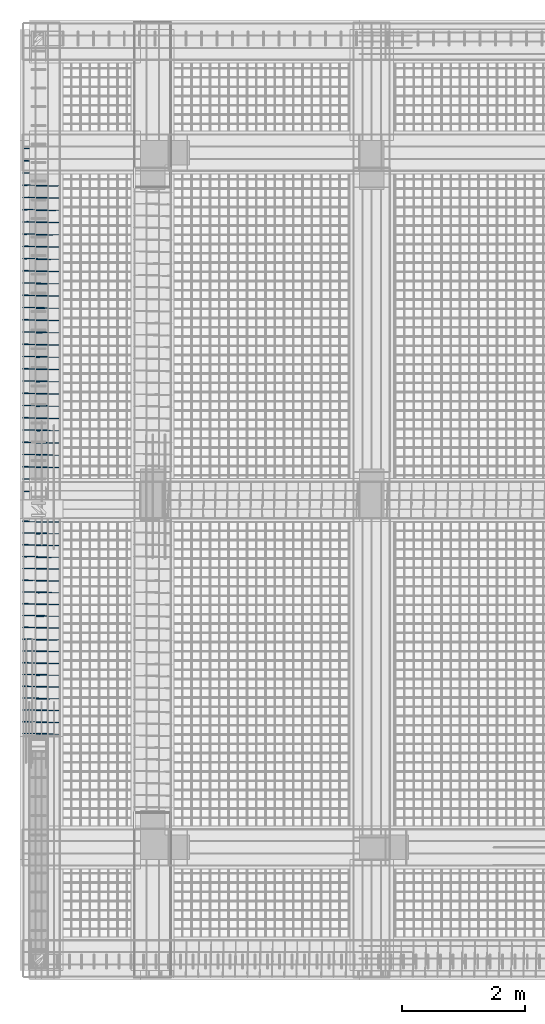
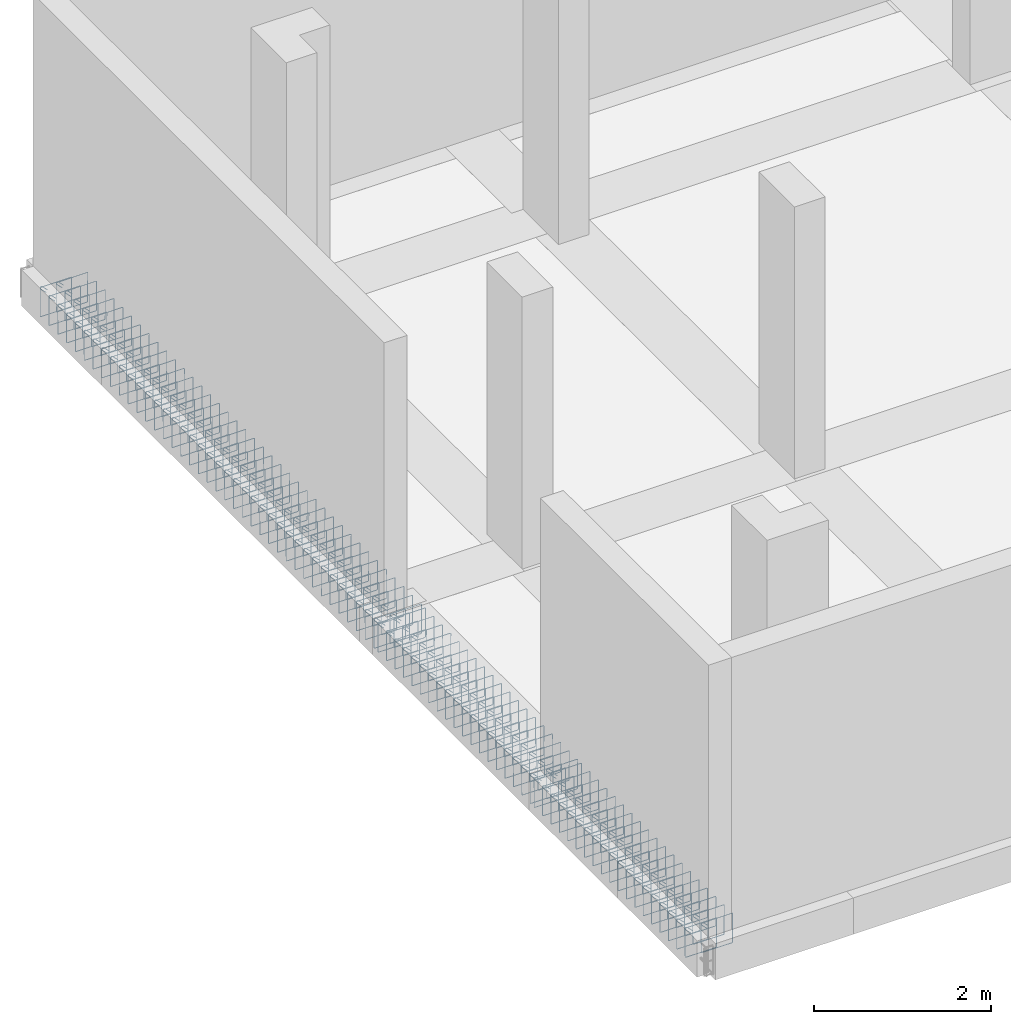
# One storey, part 3 of 9: 1 reinforcing bar.
"""IFC4 building model written with IfcOpenShell, lengths in metres."""

from ifc_helpers import new_model, entity, si_unit, origin_with_axes, place, context, project, spatial, source, transform, mapped, element, save


model = new_model("IFC4")

# Units and contexts
model_context = context("Model", 3, precision=1e-05, world=origin_with_axes())
ifc_project = project(units=[si_unit("LENGTHUNIT", "METRE"), si_unit("AREAUNIT", "SQUARE_METRE"), si_unit("VOLUMEUNIT", "CUBIC_METRE"), si_unit("MASSUNIT", "GRAM", prefix="KILO"), si_unit("TIMEUNIT", "SECOND"), si_unit("PLANEANGLEUNIT", "RADIAN"), si_unit("SOLIDANGLEUNIT", "STERADIAN"), si_unit("THERMODYNAMICTEMPERATUREUNIT", "DEGREE_CELSIUS")], contexts=[model_context])

# Site, building, storey
placement_1 = place(None, origin_with_axes())
site = spatial("IfcSite", under=ifc_project, at=placement_1, Name="Italia", CompositionType="ELEMENT")
building = spatial("IfcBuilding", under=site, at=placement_1, Name="Palazzina", CompositionType="ELEMENT")
storey = spatial("IfcBuildingStorey", under=building, at=placement_1, Name="Storey 0", CompositionType="ELEMENT", Elevation=0.0)

# Reinforcing bar
shared_shape = source(origin_with_axes(), model_context, "Body", "AdvancedSweptSolid", [
    entity("IfcSweptDiskSolid", entity("IfcIndexedPolyCurve", entity("IfcCartesianPointList3D", [[-1.83429, -1.46, -0.138211], [-1.90207, -1.45942, -0.0704289], [-1.905, -1.45937, -0.0633579], [-1.905, -1.45932, -0.055], [-1.90424, -1.4593, -0.0511732], [-1.90207, -1.45927, -0.0479289], [-1.89883, -1.45925, -0.0457612], [-1.895, -1.45923, -0.045], [-1.50833, -1.45688, -0.045], [-1.50451, -1.45686, -0.0457612], [-1.50126, -1.45683, -0.0479289], [-1.49909, -1.45681, -0.0511732], [-1.49833, -1.45679, -0.055], [-1.49833, -1.45442, -0.445], [-1.49909, -1.4544, -0.448827], [-1.50126, -1.45437, -0.452071], [-1.50451, -1.45435, -0.454239], [-1.50833, -1.45432, -0.455], [-1.895, -1.45198, -0.455], [-1.89883, -1.45195, -0.454239], [-1.90207, -1.45193, -0.452071], [-1.90424, -1.45191, -0.448827], [-1.905, -1.45188, -0.445], [-1.905, -1.44952, -0.055], [-1.90424, -1.44949, -0.0511732], [-1.90207, -1.44947, -0.0479289], [-1.89883, -1.44945, -0.0457612], [-1.895, -1.44942, -0.045], [-1.88664, -1.44937, -0.045], [-1.87957, -1.44933, -0.0479289], [-1.81179, -1.44874, -0.115711]]), [entity("IfcLineIndex", [1, 2]), entity("IfcLineIndex", [2, 3]), entity("IfcLineIndex", [3, 4]), entity("IfcLineIndex", [4, 5]), entity("IfcLineIndex", [5, 6]), entity("IfcLineIndex", [6, 7]), entity("IfcLineIndex", [7, 8]), entity("IfcLineIndex", [8, 9]), entity("IfcLineIndex", [9, 10]), entity("IfcLineIndex", [10, 11]), entity("IfcLineIndex", [11, 12]), entity("IfcLineIndex", [12, 13]), entity("IfcLineIndex", [13, 14]), entity("IfcLineIndex", [14, 15]), entity("IfcLineIndex", [15, 16]), entity("IfcLineIndex", [16, 17]), entity("IfcLineIndex", [17, 18]), entity("IfcLineIndex", [18, 19]), entity("IfcLineIndex", [19, 20]), entity("IfcLineIndex", [20, 21]), entity("IfcLineIndex", [21, 22]), entity("IfcLineIndex", [22, 23]), entity("IfcLineIndex", [23, 24]), entity("IfcLineIndex", [24, 25]), entity("IfcLineIndex", [25, 26]), entity("IfcLineIndex", [26, 27]), entity("IfcLineIndex", [27, 28]), entity("IfcLineIndex", [28, 29]), entity("IfcLineIndex", [29, 30]), entity("IfcLineIndex", [30, 31])], False), 0.005),
])
placement_2 = place(placement_1, origin_with_axes())
reinforcing_bar_placement = place(placement_2, origin_with_axes())
element("IfcReinforcingBar", 1, at=reinforcing_bar_placement, inside=storey, BarLength=1.85514, CrossSectionArea=7.854e-05, NominalDiameter=0.01, context=model_context, shape_type="MappedRepresentation", body=[
    mapped(shared_shape, transform((-7.96318e-05, 10.9985, -8.3074e-05), x_axis=(1.0, 5.45104e-05, 0.0), y_axis=(-5.45488e-05, 1.0, -5.63173e-05), z_axis=(0.0, 5.63173e-05, 1.0), scale=1.0)),
    mapped(shared_shape, transform((-7.96318e-05, 12.5859, -8.3074e-05), x_axis=(1.0, 5.45104e-05, 0.0), y_axis=(-5.45488e-05, 1.0, -5.63173e-05), z_axis=(0.0, 5.63173e-05, 1.0), scale=1.0)),
    mapped(shared_shape, transform((-7.96318e-05, 12.3875, -8.3074e-05), x_axis=(1.0, 5.45104e-05, 0.0), y_axis=(-5.45488e-05, 1.0, -5.63173e-05), z_axis=(0.0, 5.63173e-05, 1.0), scale=1.0)),
    mapped(shared_shape, transform((-7.96318e-05, 12.1891, -8.3074e-05), x_axis=(1.0, 5.45104e-05, 0.0), y_axis=(-5.45488e-05, 1.0, -5.63173e-05), z_axis=(0.0, 5.63173e-05, 1.0), scale=1.0)),
    mapped(shared_shape, transform((-7.96318e-05, 11.9906, -8.3074e-05), x_axis=(1.0, 5.45104e-05, 0.0), y_axis=(-5.45488e-05, 1.0, -5.63173e-05), z_axis=(0.0, 5.63173e-05, 1.0), scale=1.0)),
    mapped(shared_shape, transform((-7.96318e-05, 11.7922, -8.3074e-05), x_axis=(1.0, 5.45104e-05, 0.0), y_axis=(-5.45488e-05, 1.0, -5.63173e-05), z_axis=(0.0, 5.63173e-05, 1.0), scale=1.0)),
    mapped(shared_shape, transform((-7.96318e-05, 11.5938, -8.3074e-05), x_axis=(1.0, 5.45104e-05, 0.0), y_axis=(-5.45488e-05, 1.0, -5.63173e-05), z_axis=(0.0, 5.63173e-05, 1.0), scale=1.0)),
    mapped(shared_shape, transform((-7.96318e-05, 11.3954, -8.3074e-05), x_axis=(1.0, 5.45104e-05, 0.0), y_axis=(-5.45488e-05, 1.0, -5.63173e-05), z_axis=(0.0, 5.63173e-05, 1.0), scale=1.0)),
    mapped(shared_shape, transform((-7.96318e-05, 11.1969, -8.3074e-05), x_axis=(1.0, 5.45104e-05, 0.0), y_axis=(-5.45488e-05, 1.0, -5.63173e-05), z_axis=(0.0, 5.63173e-05, 1.0), scale=1.0)),
    mapped(shared_shape, transform((-7.96318e-05, 12.7843, -8.3074e-05), x_axis=(1.0, 5.45104e-05, 0.0), y_axis=(-5.45488e-05, 1.0, -5.63173e-05), z_axis=(0.0, 5.63173e-05, 1.0), scale=1.0)),
    mapped(shared_shape, transform((-7.96318e-05, 14.3717, -8.3074e-05), x_axis=(1.0, 5.45104e-05, 0.0), y_axis=(-5.45488e-05, 1.0, -5.63173e-05), z_axis=(0.0, 5.63173e-05, 1.0), scale=1.0)),
    mapped(shared_shape, transform((-7.96318e-05, 14.1733, -8.3074e-05), x_axis=(1.0, 5.45104e-05, 0.0), y_axis=(-5.45488e-05, 1.0, -5.63173e-05), z_axis=(0.0, 5.63173e-05, 1.0), scale=1.0)),
    mapped(shared_shape, transform((-7.96318e-05, 13.9748, -8.3074e-05), x_axis=(1.0, 5.45104e-05, 0.0), y_axis=(-5.45488e-05, 1.0, -5.63173e-05), z_axis=(0.0, 5.63173e-05, 1.0), scale=1.0)),
    mapped(shared_shape, transform((-7.96318e-05, 13.7764, -8.3074e-05), x_axis=(1.0, 5.45104e-05, 0.0), y_axis=(-5.45488e-05, 1.0, -5.63173e-05), z_axis=(0.0, 5.63173e-05, 1.0), scale=1.0)),
    mapped(shared_shape, transform((-7.96318e-05, 13.578, -8.3074e-05), x_axis=(1.0, 5.45104e-05, 0.0), y_axis=(-5.45488e-05, 1.0, -5.63173e-05), z_axis=(0.0, 5.63173e-05, 1.0), scale=1.0)),
    mapped(shared_shape, transform((-7.96318e-05, 13.3796, -8.3074e-05), x_axis=(1.0, 5.45104e-05, 0.0), y_axis=(-5.45488e-05, 1.0, -5.63173e-05), z_axis=(0.0, 5.63173e-05, 1.0), scale=1.0)),
    mapped(shared_shape, transform((-7.96318e-05, 13.1812, -8.3074e-05), x_axis=(1.0, 5.45104e-05, 0.0), y_axis=(-5.45488e-05, 1.0, -5.63173e-05), z_axis=(0.0, 5.63173e-05, 1.0), scale=1.0)),
    mapped(shared_shape, transform((-7.96318e-05, 12.9827, -8.3074e-05), x_axis=(1.0, 5.45104e-05, 0.0), y_axis=(-5.45488e-05, 1.0, -5.63173e-05), z_axis=(0.0, 5.63173e-05, 1.0), scale=1.0)),
    mapped(shared_shape, transform((-7.96318e-05, 14.5701, -8.3074e-05), x_axis=(1.0, 5.45104e-05, 0.0), y_axis=(-5.45488e-05, 1.0, -5.63173e-05), z_axis=(0.0, 5.63173e-05, 1.0), scale=1.0)),
    mapped(shared_shape, transform((0.203254, 12.1791, -8.3074e-05), x_axis=(1.0, 5.45104e-05, 0.0), y_axis=(-5.45488e-05, 1.0, -5.63173e-05), z_axis=(0.0, 5.63173e-05, 1.0), scale=1.0)),
    mapped(shared_shape, transform((0.203254, 11.9806, -8.3074e-05), x_axis=(1.0, 5.45104e-05, 0.0), y_axis=(-5.45488e-05, 1.0, -5.63173e-05), z_axis=(0.0, 5.63173e-05, 1.0), scale=1.0)),
    mapped(shared_shape, transform((0.203254, 11.7822, -8.3074e-05), x_axis=(1.0, 5.45104e-05, 0.0), y_axis=(-5.45488e-05, 1.0, -5.63173e-05), z_axis=(0.0, 5.63173e-05, 1.0), scale=1.0)),
    mapped(shared_shape, transform((0.203254, 11.5838, -8.3074e-05), x_axis=(1.0, 5.45104e-05, 0.0), y_axis=(-5.45488e-05, 1.0, -5.63173e-05), z_axis=(0.0, 5.63173e-05, 1.0), scale=1.0)),
    mapped(shared_shape, transform((0.203254, 11.3854, -8.3074e-05), x_axis=(1.0, 5.45104e-05, 0.0), y_axis=(-5.45488e-05, 1.0, -5.63173e-05), z_axis=(0.0, 5.63173e-05, 1.0), scale=1.0)),
    mapped(shared_shape, transform((0.203254, 11.1869, -8.3074e-05), x_axis=(1.0, 5.45104e-05, 0.0), y_axis=(-5.45488e-05, 1.0, -5.63173e-05), z_axis=(0.0, 5.63173e-05, 1.0), scale=1.0)),
    mapped(shared_shape, transform((0.203254, 10.9885, -8.3074e-05), x_axis=(1.0, 5.45104e-05, 0.0), y_axis=(-5.45488e-05, 1.0, -5.63173e-05), z_axis=(0.0, 5.63173e-05, 1.0), scale=1.0)),
    mapped(shared_shape, transform((0.203254, 10.7901, -8.3074e-05), x_axis=(1.0, 5.45104e-05, 0.0), y_axis=(-5.45488e-05, 1.0, -5.63173e-05), z_axis=(0.0, 5.63173e-05, 1.0), scale=1.0)),
    mapped(shared_shape, transform((0.203254, 12.3775, -8.3074e-05), x_axis=(1.0, 5.45104e-05, 0.0), y_axis=(-5.45488e-05, 1.0, -5.63173e-05), z_axis=(0.0, 5.63173e-05, 1.0), scale=1.0)),
    mapped(shared_shape, transform((-7.96318e-05, 10.4033, -8.3074e-05), x_axis=(1.0, 5.45104e-05, 0.0), y_axis=(-5.45488e-05, 1.0, -5.63173e-05), z_axis=(0.0, 5.63173e-05, 1.0), scale=1.0)),
    mapped(shared_shape, transform((-7.96318e-05, 10.2048, -8.3074e-05), x_axis=(1.0, 5.45104e-05, 0.0), y_axis=(-5.45488e-05, 1.0, -5.63173e-05), z_axis=(0.0, 5.63173e-05, 1.0), scale=1.0)),
    mapped(shared_shape, transform((-7.96318e-05, 10.0064, -8.3074e-05), x_axis=(1.0, 5.45104e-05, 0.0), y_axis=(-5.45488e-05, 1.0, -5.63173e-05), z_axis=(0.0, 5.63173e-05, 1.0), scale=1.0)),
    mapped(shared_shape, transform((-7.96318e-05, 9.808, -8.3074e-05), x_axis=(1.0, 5.45104e-05, 0.0), y_axis=(-5.45488e-05, 1.0, -5.63173e-05), z_axis=(0.0, 5.63173e-05, 1.0), scale=1.0)),
    mapped(shared_shape, transform((-7.96318e-05, 9.60958, -8.3074e-05), x_axis=(1.0, 5.45104e-05, 0.0), y_axis=(-5.45488e-05, 1.0, -5.63173e-05), z_axis=(0.0, 5.63173e-05, 1.0), scale=1.0)),
    mapped(shared_shape, transform((0.203254, 12.9727, -8.3074e-05), x_axis=(1.0, 5.45104e-05, 0.0), y_axis=(-5.45488e-05, 1.0, -5.63173e-05), z_axis=(0.0, 5.63173e-05, 1.0), scale=1.0)),
    mapped(shared_shape, transform((0.203254, 12.7743, -8.3074e-05), x_axis=(1.0, 5.45104e-05, 0.0), y_axis=(-5.45488e-05, 1.0, -5.63173e-05), z_axis=(0.0, 5.63173e-05, 1.0), scale=1.0)),
    mapped(shared_shape, transform((0.203254, 12.5759, -8.3074e-05), x_axis=(1.0, 5.45104e-05, 0.0), y_axis=(-5.45488e-05, 1.0, -5.63173e-05), z_axis=(0.0, 5.63173e-05, 1.0), scale=1.0)),
    mapped(shared_shape, transform((-7.96318e-05, 10.6017, -8.3074e-05), x_axis=(1.0, 5.45104e-05, 0.0), y_axis=(-5.45488e-05, 1.0, -5.63173e-05), z_axis=(0.0, 5.63173e-05, 1.0), scale=1.0)),
    mapped(shared_shape, transform((0.203254, 13.9648, -8.3074e-05), x_axis=(1.0, 5.45104e-05, 0.0), y_axis=(-5.45488e-05, 1.0, -5.63173e-05), z_axis=(0.0, 5.63173e-05, 1.0), scale=1.0)),
    mapped(shared_shape, transform((0.203254, 13.3696, -8.3074e-05), x_axis=(1.0, 5.45104e-05, 0.0), y_axis=(-5.45488e-05, 1.0, -5.63173e-05), z_axis=(0.0, 5.63173e-05, 1.0), scale=1.0)),
    mapped(shared_shape, transform((-7.96318e-05, 10.8001, -8.3074e-05), x_axis=(1.0, 5.45104e-05, 0.0), y_axis=(-5.45488e-05, 1.0, -5.63173e-05), z_axis=(0.0, 5.63173e-05, 1.0), scale=1.0)),
    mapped(shared_shape, transform((0.203333, 1.695, 0.0), x_axis=(1.0, 0.0, 0.0), y_axis=(0.0, 1.0, 0.0), z_axis=(0.0, 0.0, 1.0), scale=1.0)),
    mapped(shared_shape, transform((0.203333, -0.00999987, 0.0), x_axis=(1.0, 0.0, 0.0), y_axis=(0.0, 1.0, 0.0), z_axis=(0.0, 0.0, 1.0), scale=1.0)),
    mapped(shared_shape, transform((0.203254, 13.568, -8.3074e-05), x_axis=(1.0, 5.45104e-05, 0.0), y_axis=(-5.45488e-05, 1.0, -5.63173e-05), z_axis=(0.0, 5.63173e-05, 1.0), scale=1.0)),
    mapped(shared_shape, transform((0.203254, 13.1712, -8.3074e-05), x_axis=(1.0, 5.45104e-05, 0.0), y_axis=(-5.45488e-05, 1.0, -5.63173e-05), z_axis=(0.0, 5.63173e-05, 1.0), scale=1.0)),
    mapped(shared_shape, transform((0.203333, 0.179445, 0.0), x_axis=(1.0, 0.0, 0.0), y_axis=(0.0, 1.0, 0.0), z_axis=(0.0, 0.0, 1.0), scale=1.0)),
    mapped(shared_shape, transform((0.203254, 9.798, -8.3074e-05), x_axis=(1.0, 5.45104e-05, 0.0), y_axis=(-5.45488e-05, 1.0, -5.63173e-05), z_axis=(0.0, 5.63173e-05, 1.0), scale=1.0)),
    mapped(shared_shape, transform((0.203254, 14.1633, -8.3074e-05), x_axis=(1.0, 5.45104e-05, 0.0), y_axis=(-5.45488e-05, 1.0, -5.63173e-05), z_axis=(0.0, 5.63173e-05, 1.0), scale=1.0)),
    mapped(shared_shape, transform((0.203254, 13.7664, -8.3074e-05), x_axis=(1.0, 5.45104e-05, 0.0), y_axis=(-5.45488e-05, 1.0, -5.63173e-05), z_axis=(0.0, 5.63173e-05, 1.0), scale=1.0)),
    mapped(shared_shape, transform((0.203333, 0.368889, 0.0), x_axis=(1.0, 0.0, 0.0), y_axis=(0.0, 1.0, 0.0), z_axis=(0.0, 0.0, 1.0), scale=1.0)),
    mapped(shared_shape, transform((0.0, 0.189445, 0.0), x_axis=(1.0, 0.0, 0.0), y_axis=(0.0, 1.0, 0.0), z_axis=(0.0, 0.0, 1.0), scale=1.0)),
    mapped(shared_shape, transform((0.203254, 10.1948, -8.3074e-05), x_axis=(1.0, 5.45104e-05, 0.0), y_axis=(-5.45488e-05, 1.0, -5.63173e-05), z_axis=(0.0, 5.63173e-05, 1.0), scale=1.0)),
    mapped(shared_shape, transform((0.0, 0.0, 0.0), x_axis=(1.0, 0.0, 0.0), y_axis=(0.0, 1.0, 0.0), z_axis=(0.0, 0.0, 1.0), scale=1.0)),
    mapped(shared_shape, transform((0.0, 1.13667, 0.0), x_axis=(1.0, 0.0, 0.0), y_axis=(0.0, 1.0, 0.0), z_axis=(0.0, 0.0, 1.0), scale=1.0)),
    mapped(shared_shape, transform((0.0, 1.89444, 0.0), x_axis=(1.0, 0.0, 0.0), y_axis=(0.0, 1.0, 0.0), z_axis=(0.0, 0.0, 1.0), scale=1.0)),
    mapped(shared_shape, transform((0.203333, 2.07389, 0.0), x_axis=(1.0, 0.0, 0.0), y_axis=(0.0, 1.0, 0.0), z_axis=(0.0, 0.0, 1.0), scale=1.0)),
    mapped(shared_shape, transform((0.203254, 9.99642, -8.3074e-05), x_axis=(1.0, 5.45104e-05, 0.0), y_axis=(-5.45488e-05, 1.0, -5.63173e-05), z_axis=(0.0, 5.63173e-05, 1.0), scale=1.0)),
    mapped(shared_shape, transform((0.203329, 2.64223, 0.0), x_axis=(1.0, 0.0, 0.0), y_axis=(0.0, 1.0, 0.0), z_axis=(0.0, 0.0, 1.0), scale=1.0)),
    mapped(shared_shape, transform((0.0, 1.705, 0.0), x_axis=(1.0, 0.0, 0.0), y_axis=(0.0, 1.0, 0.0), z_axis=(0.0, 0.0, 1.0), scale=1.0)),
    mapped(shared_shape, transform((0.203333, 2.26333, 0.0), x_axis=(1.0, 0.0, 0.0), y_axis=(0.0, 1.0, 0.0), z_axis=(0.0, 0.0, 1.0), scale=1.0)),
    mapped(shared_shape, transform((0.203254, 14.5601, -8.3074e-05), x_axis=(1.0, 5.45104e-05, 0.0), y_axis=(-5.45488e-05, 1.0, -5.63173e-05), z_axis=(0.0, 5.63173e-05, 1.0), scale=1.0)),
    mapped(shared_shape, transform((0.0, 0.378889, 0.0), x_axis=(1.0, 0.0, 0.0), y_axis=(0.0, 1.0, 0.0), z_axis=(0.0, 0.0, 1.0), scale=1.0)),
    mapped(shared_shape, transform((0.203354, 0.937194, 2.12938e-05), x_axis=(1.0, -1.44335e-05, 0.0), y_axis=(1.43903e-05, 1.0, 1.43903e-05), z_axis=(0.0, -1.43903e-05, 1.0), scale=1.0)),
    mapped(shared_shape, transform((0.203354, 1.12664, 2.12938e-05), x_axis=(1.0, -1.44335e-05, 0.0), y_axis=(1.43903e-05, 1.0, 1.43903e-05), z_axis=(0.0, -1.43903e-05, 1.0), scale=1.0)),
    mapped(shared_shape, transform((2.09808e-05, 0.568305, 2.12938e-05), x_axis=(1.0, -1.44335e-05, 0.0), y_axis=(1.43903e-05, 1.0, 1.43903e-05), z_axis=(0.0, -1.43903e-05, 1.0), scale=1.0)),
    mapped(shared_shape, transform((0.203354, 0.558305, 2.12938e-05), x_axis=(1.0, -1.44335e-05, 0.0), y_axis=(1.43903e-05, 1.0, 1.43903e-05), z_axis=(0.0, -1.43903e-05, 1.0), scale=1.0)),
    mapped(shared_shape, transform((0.203354, 1.50553, 2.12938e-05), x_axis=(1.0, -1.44335e-05, 0.0), y_axis=(1.43903e-05, 1.0, 1.43903e-05), z_axis=(0.0, -1.43903e-05, 1.0), scale=1.0)),
    mapped(shared_shape, transform((0.203354, 0.74775, 2.12938e-05), x_axis=(1.0, -1.44335e-05, 0.0), y_axis=(1.43903e-05, 1.0, 1.43903e-05), z_axis=(0.0, -1.43903e-05, 1.0), scale=1.0)),
    mapped(shared_shape, transform((0.203354, 1.31608, 2.12938e-05), x_axis=(1.0, -1.44335e-05, 0.0), y_axis=(1.43903e-05, 1.0, 1.43903e-05), z_axis=(0.0, -1.43903e-05, 1.0), scale=1.0)),
    mapped(shared_shape, transform((2.09808e-05, 0.75775, 2.12938e-05), x_axis=(1.0, -1.44335e-05, 0.0), y_axis=(1.43903e-05, 1.0, 1.43903e-05), z_axis=(0.0, -1.43903e-05, 1.0), scale=1.0)),
    mapped(shared_shape, transform((2.09808e-05, 1.51553, 2.12938e-05), x_axis=(1.0, -1.44335e-05, 0.0), y_axis=(1.43903e-05, 1.0, 1.43903e-05), z_axis=(0.0, -1.43903e-05, 1.0), scale=1.0)),
    mapped(shared_shape, transform((2.09808e-05, 0.947194, 2.12938e-05), x_axis=(1.0, -1.44335e-05, 0.0), y_axis=(1.43903e-05, 1.0, 1.43903e-05), z_axis=(0.0, -1.43903e-05, 1.0), scale=1.0)),
    mapped(shared_shape, transform((2.09808e-05, 1.32608, 2.12938e-05), x_axis=(1.0, -1.44335e-05, 0.0), y_axis=(1.43903e-05, 1.0, 1.43903e-05), z_axis=(0.0, -1.43903e-05, 1.0), scale=1.0)),
    mapped(shared_shape, transform((0.203375, 1.88439, 4.23938e-05), x_axis=(1.0, -2.88237e-05, 0.0), y_axis=(2.87805e-05, 1.0, 2.87803e-05), z_axis=(0.0, -2.87803e-05, 1.0), scale=1.0)),
    mapped(shared_shape, transform((0.203333, 2.45278, 0.0), x_axis=(1.0, 0.0, 0.0), y_axis=(0.0, 1.0, 0.0), z_axis=(0.0, 0.0, 1.0), scale=1.0)),
    mapped(shared_shape, transform((0.203254, 9.59958, -8.3074e-05), x_axis=(1.0, 5.45104e-05, 0.0), y_axis=(-5.45488e-05, 1.0, -5.63173e-05), z_axis=(0.0, 5.63173e-05, 1.0), scale=1.0)),
    mapped(shared_shape, transform((0.0, 2.08389, 0.0), x_axis=(1.0, 0.0, 0.0), y_axis=(0.0, 1.0, 0.0), z_axis=(0.0, 0.0, 1.0), scale=1.0)),
    mapped(shared_shape, transform((0.203254, 14.3617, -8.3074e-05), x_axis=(1.0, 5.45104e-05, 0.0), y_axis=(-5.45488e-05, 1.0, -5.63173e-05), z_axis=(0.0, 5.63173e-05, 1.0), scale=1.0)),
    mapped(shared_shape, transform((0.0, 2.46278, 0.0), x_axis=(1.0, 0.0, 0.0), y_axis=(0.0, 1.0, 0.0), z_axis=(0.0, 0.0, 1.0), scale=1.0)),
    mapped(shared_shape, transform((0.203254, 10.5917, -8.3074e-05), x_axis=(1.0, 5.45104e-05, 0.0), y_axis=(-5.45488e-05, 1.0, -5.63173e-05), z_axis=(0.0, 5.63173e-05, 1.0), scale=1.0)),
    mapped(shared_shape, transform((0.203254, 10.3933, -8.3074e-05), x_axis=(1.0, 5.45104e-05, 0.0), y_axis=(-5.45488e-05, 1.0, -5.63173e-05), z_axis=(0.0, 5.63173e-05, 1.0), scale=1.0)),
    mapped(shared_shape, transform((0.203329, 3.21056, 0.0), x_axis=(1.0, 0.0, 0.0), y_axis=(0.0, 1.0, 0.0), z_axis=(0.0, 0.0, 1.0), scale=1.0)),
    mapped(shared_shape, transform((0.203329, 3.40001, 0.0), x_axis=(1.0, 0.0, 0.0), y_axis=(0.0, 1.0, 0.0), z_axis=(0.0, 0.0, 1.0), scale=1.0)),
    mapped(shared_shape, transform((0.0, 2.27333, 0.0), x_axis=(1.0, 0.0, 0.0), y_axis=(0.0, 1.0, 0.0), z_axis=(0.0, 0.0, 1.0), scale=1.0)),
    mapped(shared_shape, transform((0.0, 5.21999, 0.0), x_axis=(1.0, 0.0, 0.0), y_axis=(0.0, 1.0, 0.0), z_axis=(0.0, 0.0, 1.0), scale=1.0)),
    mapped(shared_shape, transform((0.0, 2.65222, 0.0), x_axis=(1.0, 0.0, 0.0), y_axis=(0.0, 1.0, 0.0), z_axis=(0.0, 0.0, 1.0), scale=1.0)),
    mapped(shared_shape, transform((0.0, 2.84166, 0.0), x_axis=(1.0, 0.0, 0.0), y_axis=(0.0, 1.0, 0.0), z_axis=(0.0, 0.0, 1.0), scale=1.0)),
    mapped(shared_shape, transform((0.0, 4.45555, 0.0), x_axis=(1.0, 0.0, 0.0), y_axis=(0.0, 1.0, 0.0), z_axis=(0.0, 0.0, 1.0), scale=1.0)),
    mapped(shared_shape, transform((0.0, 4.83777, 0.0), x_axis=(1.0, 0.0, 0.0), y_axis=(0.0, 1.0, 0.0), z_axis=(0.0, 0.0, 1.0), scale=1.0)),
    mapped(shared_shape, transform((0.0, 3.49999, 0.0), x_axis=(1.0, 0.0, 0.0), y_axis=(0.0, 1.0, 0.0), z_axis=(0.0, 0.0, 1.0), scale=1.0)),
    mapped(shared_shape, transform((0.0, 5.41111, 0.0), x_axis=(1.0, 0.0, 0.0), y_axis=(0.0, 1.0, 0.0), z_axis=(0.0, 0.0, 1.0), scale=1.0)),
    mapped(shared_shape, transform((0.0, 3.22055, 0.0), x_axis=(1.0, 0.0, 0.0), y_axis=(0.0, 1.0, 0.0), z_axis=(0.0, 0.0, 1.0), scale=1.0)),
    mapped(shared_shape, transform((0.0, 3.03111, 0.0), x_axis=(1.0, 0.0, 0.0), y_axis=(0.0, 1.0, 0.0), z_axis=(0.0, 0.0, 1.0), scale=1.0)),
    mapped(shared_shape, transform((0.0, 3.69111, 0.0), x_axis=(1.0, 0.0, 0.0), y_axis=(0.0, 1.0, 0.0), z_axis=(0.0, 0.0, 1.0), scale=1.0)),
    mapped(shared_shape, transform((0.0, 4.26444, 0.0), x_axis=(1.0, 0.0, 0.0), y_axis=(0.0, 1.0, 0.0), z_axis=(0.0, 0.0, 1.0), scale=1.0)),
    mapped(shared_shape, transform((0.0, 5.02888, 0.0), x_axis=(1.0, 0.0, 0.0), y_axis=(0.0, 1.0, 0.0), z_axis=(0.0, 0.0, 1.0), scale=1.0)),
    mapped(shared_shape, transform((0.0, 3.41, 0.0), x_axis=(1.0, 0.0, 0.0), y_axis=(0.0, 1.0, 0.0), z_axis=(0.0, 0.0, 1.0), scale=1.0)),
    mapped(shared_shape, transform((0.0, 4.64666, 0.0), x_axis=(1.0, 0.0, 0.0), y_axis=(0.0, 1.0, 0.0), z_axis=(0.0, 0.0, 1.0), scale=1.0)),
    mapped(shared_shape, transform((0.0, 3.88222, 0.0), x_axis=(1.0, 0.0, 0.0), y_axis=(0.0, 1.0, 0.0), z_axis=(0.0, 0.0, 1.0), scale=1.0)),
    mapped(shared_shape, transform((0.0, 4.07333, 0.0), x_axis=(1.0, 0.0, 0.0), y_axis=(0.0, 1.0, 0.0), z_axis=(0.0, 0.0, 1.0), scale=1.0)),
    mapped(shared_shape, transform((8.83341e-05, 8.02199, 8.68589e-05), x_axis=(1.0, -6.06193e-05, 0.0), y_axis=(6.05778e-05, 1.0, 5.88162e-05), z_axis=(0.0, -5.88162e-05, 1.0), scale=1.0)),
    mapped(shared_shape, transform((8.83341e-05, 6.74877, 8.68589e-05), x_axis=(1.0, -6.06193e-05, 0.0), y_axis=(6.05778e-05, 1.0, 5.88162e-05), z_axis=(0.0, -5.88162e-05, 1.0), scale=1.0)),
    mapped(shared_shape, transform((8.83341e-05, 7.62514, 8.68589e-05), x_axis=(1.0, -6.06193e-05, 0.0), y_axis=(6.05778e-05, 1.0, 5.88162e-05), z_axis=(0.0, -5.88162e-05, 1.0), scale=1.0)),
    mapped(shared_shape, transform((8.83341e-05, 9.21251, 8.68589e-05), x_axis=(1.0, -6.06193e-05, 0.0), y_axis=(6.05778e-05, 1.0, 5.88162e-05), z_axis=(0.0, -5.88162e-05, 1.0), scale=1.0)),
    mapped(shared_shape, transform((8.83341e-05, 8.61725, 8.68589e-05), x_axis=(1.0, -6.06193e-05, 0.0), y_axis=(6.05778e-05, 1.0, 5.88162e-05), z_axis=(0.0, -5.88162e-05, 1.0), scale=1.0)),
    mapped(shared_shape, transform((8.83341e-05, 7.2283, 8.68589e-05), x_axis=(1.0, -6.06193e-05, 0.0), y_axis=(6.05778e-05, 1.0, 5.88162e-05), z_axis=(0.0, -5.88162e-05, 1.0), scale=1.0)),
    mapped(shared_shape, transform((8.83341e-05, 8.41883, 8.68589e-05), x_axis=(1.0, -6.06193e-05, 0.0), y_axis=(6.05778e-05, 1.0, 5.88162e-05), z_axis=(0.0, -5.88162e-05, 1.0), scale=1.0)),
    mapped(shared_shape, transform((8.83341e-05, 7.82357, 8.68589e-05), x_axis=(1.0, -6.06193e-05, 0.0), y_axis=(6.05778e-05, 1.0, 5.88162e-05), z_axis=(0.0, -5.88162e-05, 1.0), scale=1.0)),
    mapped(shared_shape, transform((8.83341e-05, 8.22041, 8.68589e-05), x_axis=(1.0, -6.06193e-05, 0.0), y_axis=(6.05778e-05, 1.0, 5.88162e-05), z_axis=(0.0, -5.88162e-05, 1.0), scale=1.0)),
    mapped(shared_shape, transform((8.83341e-05, 6.55766, 8.68589e-05), x_axis=(1.0, -6.06193e-05, 0.0), y_axis=(6.05778e-05, 1.0, 5.88162e-05), z_axis=(0.0, -5.88162e-05, 1.0), scale=1.0)),
    mapped(shared_shape, transform((8.83341e-05, 9.01409, 8.68589e-05), x_axis=(1.0, -6.06193e-05, 0.0), y_axis=(6.05778e-05, 1.0, 5.88162e-05), z_axis=(0.0, -5.88162e-05, 1.0), scale=1.0)),
    mapped(shared_shape, transform((8.83341e-05, 6.17544, 8.68589e-05), x_axis=(1.0, -6.06193e-05, 0.0), y_axis=(6.05778e-05, 1.0, 5.88162e-05), z_axis=(0.0, -5.88162e-05, 1.0), scale=1.0)),
    mapped(shared_shape, transform((8.83341e-05, 5.6021, 8.68589e-05), x_axis=(1.0, -6.06193e-05, 0.0), y_axis=(6.05778e-05, 1.0, 5.88162e-05), z_axis=(0.0, -5.88162e-05, 1.0), scale=1.0)),
    mapped(shared_shape, transform((8.83341e-05, 9.41093, 8.68589e-05), x_axis=(1.0, -6.06193e-05, 0.0), y_axis=(6.05778e-05, 1.0, 5.88162e-05), z_axis=(0.0, -5.88162e-05, 1.0), scale=1.0)),
    mapped(shared_shape, transform((8.83341e-05, 8.81567, 8.68589e-05), x_axis=(1.0, -6.06193e-05, 0.0), y_axis=(6.05778e-05, 1.0, 5.88162e-05), z_axis=(0.0, -5.88162e-05, 1.0), scale=1.0)),
    mapped(shared_shape, transform((8.83341e-05, 6.36655, 8.68589e-05), x_axis=(1.0, -6.06193e-05, 0.0), y_axis=(6.05778e-05, 1.0, 5.88162e-05), z_axis=(0.0, -5.88162e-05, 1.0), scale=1.0)),
    mapped(shared_shape, transform((8.83341e-05, 5.79321, 8.68589e-05), x_axis=(1.0, -6.06193e-05, 0.0), y_axis=(6.05778e-05, 1.0, 5.88162e-05), z_axis=(0.0, -5.88162e-05, 1.0), scale=1.0)),
    mapped(shared_shape, transform((8.83341e-05, 5.98433, 8.68589e-05), x_axis=(1.0, -6.06193e-05, 0.0), y_axis=(6.05778e-05, 1.0, 5.88162e-05), z_axis=(0.0, -5.88162e-05, 1.0), scale=1.0)),
    mapped(shared_shape, transform((8.83341e-05, 7.42672, 8.68589e-05), x_axis=(1.0, -6.06193e-05, 0.0), y_axis=(6.05778e-05, 1.0, 5.88162e-05), z_axis=(0.0, -5.88162e-05, 1.0), scale=1.0)),
    mapped(shared_shape, transform((8.83341e-05, 7.02988, 8.68589e-05), x_axis=(1.0, -6.06193e-05, 0.0), y_axis=(6.05778e-05, 1.0, 5.88162e-05), z_axis=(0.0, -5.88162e-05, 1.0), scale=1.0)),
    mapped(shared_shape, transform((8.83341e-05, 6.93988, 8.68589e-05), x_axis=(1.0, -6.06193e-05, 0.0), y_axis=(6.05778e-05, 1.0, 5.88162e-05), z_axis=(0.0, -5.88162e-05, 1.0), scale=1.0)),
    mapped(shared_shape, transform((0.203329, 3.02112, 0.0), x_axis=(1.0, 0.0, 0.0), y_axis=(0.0, 1.0, 0.0), z_axis=(0.0, 0.0, 1.0), scale=1.0)),
    mapped(shared_shape, transform((0.203329, 2.83167, 0.0), x_axis=(1.0, 0.0, 0.0), y_axis=(0.0, 1.0, 0.0), z_axis=(0.0, 0.0, 1.0), scale=1.0)),
    mapped(shared_shape, transform((0.203338, 4.44555, 0.0), x_axis=(1.0, 0.0, 0.0), y_axis=(0.0, 1.0, 0.0), z_axis=(0.0, 0.0, 1.0), scale=1.0)),
    mapped(shared_shape, transform((0.203338, 3.68111, 0.0), x_axis=(1.0, 0.0, 0.0), y_axis=(0.0, 1.0, 0.0), z_axis=(0.0, 0.0, 1.0), scale=1.0)),
    mapped(shared_shape, transform((0.203338, 4.82777, 0.0), x_axis=(1.0, 0.0, 0.0), y_axis=(0.0, 1.0, 0.0), z_axis=(0.0, 0.0, 1.0), scale=1.0)),
    mapped(shared_shape, transform((0.203338, 3.48999, 0.0), x_axis=(1.0, 0.0, 0.0), y_axis=(0.0, 1.0, 0.0), z_axis=(0.0, 0.0, 1.0), scale=1.0)),
    mapped(shared_shape, transform((0.203338, 5.01888, 0.0), x_axis=(1.0, 0.0, 0.0), y_axis=(0.0, 1.0, 0.0), z_axis=(0.0, 0.0, 1.0), scale=1.0)),
    mapped(shared_shape, transform((0.203338, 5.40111, 0.0), x_axis=(1.0, 0.0, 0.0), y_axis=(0.0, 1.0, 0.0), z_axis=(0.0, 0.0, 1.0), scale=1.0)),
    mapped(shared_shape, transform((0.203338, 4.25444, 0.0), x_axis=(1.0, 0.0, 0.0), y_axis=(0.0, 1.0, 0.0), z_axis=(0.0, 0.0, 1.0), scale=1.0)),
    mapped(shared_shape, transform((0.203338, 4.06333, 0.0), x_axis=(1.0, 0.0, 0.0), y_axis=(0.0, 1.0, 0.0), z_axis=(0.0, 0.0, 1.0), scale=1.0)),
    mapped(shared_shape, transform((0.203338, 4.63666, 0.0), x_axis=(1.0, 0.0, 0.0), y_axis=(0.0, 1.0, 0.0), z_axis=(0.0, 0.0, 1.0), scale=1.0)),
    mapped(shared_shape, transform((0.203338, 3.87222, 0.0), x_axis=(1.0, 0.0, 0.0), y_axis=(0.0, 1.0, 0.0), z_axis=(0.0, 0.0, 1.0), scale=1.0)),
    mapped(shared_shape, transform((0.203338, 5.20999, 0.0), x_axis=(1.0, 0.0, 0.0), y_axis=(0.0, 1.0, 0.0), z_axis=(0.0, 0.0, 1.0), scale=1.0)),
    mapped(shared_shape, transform((0.203422, 9.40093, 8.68589e-05), x_axis=(1.0, -6.06193e-05, 0.0), y_axis=(6.05778e-05, 1.0, 5.88162e-05), z_axis=(0.0, -5.88162e-05, 1.0), scale=1.0)),
    mapped(shared_shape, transform((0.203422, 6.35655, 8.68589e-05), x_axis=(1.0, -6.06193e-05, 0.0), y_axis=(6.05778e-05, 1.0, 5.88162e-05), z_axis=(0.0, -5.88162e-05, 1.0), scale=1.0)),
    mapped(shared_shape, transform((0.203422, 8.60725, 8.68589e-05), x_axis=(1.0, -6.06193e-05, 0.0), y_axis=(6.05778e-05, 1.0, 5.88162e-05), z_axis=(0.0, -5.88162e-05, 1.0), scale=1.0)),
    mapped(shared_shape, transform((0.203422, 5.5921, 8.68589e-05), x_axis=(1.0, -6.06193e-05, 0.0), y_axis=(6.05778e-05, 1.0, 5.88162e-05), z_axis=(0.0, -5.88162e-05, 1.0), scale=1.0)),
    mapped(shared_shape, transform((0.203422, 6.16544, 8.68589e-05), x_axis=(1.0, -6.06193e-05, 0.0), y_axis=(6.05778e-05, 1.0, 5.88162e-05), z_axis=(0.0, -5.88162e-05, 1.0), scale=1.0)),
    mapped(shared_shape, transform((0.203422, 6.73877, 8.68589e-05), x_axis=(1.0, -6.06193e-05, 0.0), y_axis=(6.05778e-05, 1.0, 5.88162e-05), z_axis=(0.0, -5.88162e-05, 1.0), scale=1.0)),
    mapped(shared_shape, transform((0.203422, 9.20251, 8.68589e-05), x_axis=(1.0, -6.06193e-05, 0.0), y_axis=(6.05778e-05, 1.0, 5.88162e-05), z_axis=(0.0, -5.88162e-05, 1.0), scale=1.0)),
    mapped(shared_shape, transform((0.203422, 5.78321, 8.68589e-05), x_axis=(1.0, -6.06193e-05, 0.0), y_axis=(6.05778e-05, 1.0, 5.88162e-05), z_axis=(0.0, -5.88162e-05, 1.0), scale=1.0)),
    mapped(shared_shape, transform((0.203422, 8.01199, 8.68589e-05), x_axis=(1.0, -6.06193e-05, 0.0), y_axis=(6.05778e-05, 1.0, 5.88162e-05), z_axis=(0.0, -5.88162e-05, 1.0), scale=1.0)),
    mapped(shared_shape, transform((0.203422, 5.97433, 8.68589e-05), x_axis=(1.0, -6.06193e-05, 0.0), y_axis=(6.05778e-05, 1.0, 5.88162e-05), z_axis=(0.0, -5.88162e-05, 1.0), scale=1.0)),
    mapped(shared_shape, transform((0.203422, 8.40883, 8.68589e-05), x_axis=(1.0, -6.06193e-05, 0.0), y_axis=(6.05778e-05, 1.0, 5.88162e-05), z_axis=(0.0, -5.88162e-05, 1.0), scale=1.0)),
    mapped(shared_shape, transform((0.203422, 7.81357, 8.68589e-05), x_axis=(1.0, -6.06193e-05, 0.0), y_axis=(6.05778e-05, 1.0, 5.88162e-05), z_axis=(0.0, -5.88162e-05, 1.0), scale=1.0)),
    mapped(shared_shape, transform((0.203422, 7.2183, 8.68589e-05), x_axis=(1.0, -6.06193e-05, 0.0), y_axis=(6.05778e-05, 1.0, 5.88162e-05), z_axis=(0.0, -5.88162e-05, 1.0), scale=1.0)),
    mapped(shared_shape, transform((0.203422, 6.92988, 8.68589e-05), x_axis=(1.0, -6.06193e-05, 0.0), y_axis=(6.05778e-05, 1.0, 5.88162e-05), z_axis=(0.0, -5.88162e-05, 1.0), scale=1.0)),
    mapped(shared_shape, transform((0.203422, 7.61514, 8.68589e-05), x_axis=(1.0, -6.06193e-05, 0.0), y_axis=(6.05778e-05, 1.0, 5.88162e-05), z_axis=(0.0, -5.88162e-05, 1.0), scale=1.0)),
    mapped(shared_shape, transform((0.203422, 7.01988, 8.68589e-05), x_axis=(1.0, -6.06193e-05, 0.0), y_axis=(6.05778e-05, 1.0, 5.88162e-05), z_axis=(0.0, -5.88162e-05, 1.0), scale=1.0)),
    mapped(shared_shape, transform((0.203422, 6.54766, 8.68589e-05), x_axis=(1.0, -6.06193e-05, 0.0), y_axis=(6.05778e-05, 1.0, 5.88162e-05), z_axis=(0.0, -5.88162e-05, 1.0), scale=1.0)),
    mapped(shared_shape, transform((0.203422, 9.00409, 8.68589e-05), x_axis=(1.0, -6.06193e-05, 0.0), y_axis=(6.05778e-05, 1.0, 5.88162e-05), z_axis=(0.0, -5.88162e-05, 1.0), scale=1.0)),
    mapped(shared_shape, transform((0.203422, 8.80567, 8.68589e-05), x_axis=(1.0, -6.06193e-05, 0.0), y_axis=(6.05778e-05, 1.0, 5.88162e-05), z_axis=(0.0, -5.88162e-05, 1.0), scale=1.0)),
    mapped(shared_shape, transform((0.203422, 8.21041, 8.68589e-05), x_axis=(1.0, -6.06193e-05, 0.0), y_axis=(6.05778e-05, 1.0, 5.88162e-05), z_axis=(0.0, -5.88162e-05, 1.0), scale=1.0)),
    mapped(shared_shape, transform((0.203422, 7.41672, 8.68589e-05), x_axis=(1.0, -6.06193e-05, 0.0), y_axis=(6.05778e-05, 1.0, 5.88162e-05), z_axis=(0.0, -5.88162e-05, 1.0), scale=1.0)),
])

save(model, "model.ifc")
